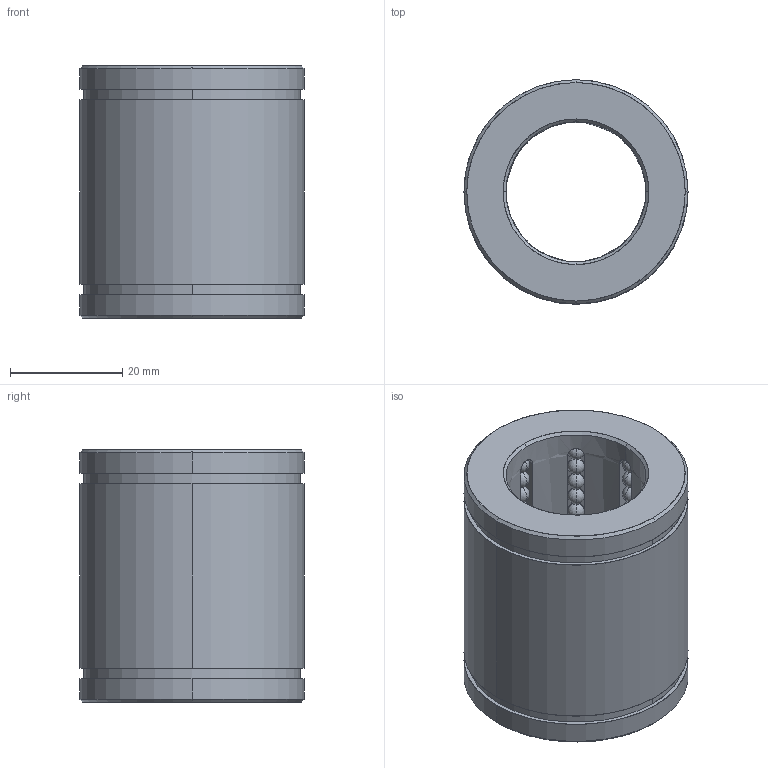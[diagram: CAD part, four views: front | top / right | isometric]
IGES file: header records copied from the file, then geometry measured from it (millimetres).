
Start section: START RECORD GO HERE.
Global section: file name: B8032545.igs; native system: DASSAULT SYSTEMES CATIA V5 R20 - www.3ds.com; preprocessor: CATIA Version 5 Release 20 ; author: Utente; organization: NB04-ASUS; date: 20200419.161549; units: millimetre
Bounding box: 40 x 40 x 45 mm (x, y, z)
Surface area: 15543.2 mm2 (no closed solid volume)
Topology: 0 solids, 0 shells, 458 faces, 1892 edges, 1124 vertices
Faces by surface type: revolution 428, plane 30
